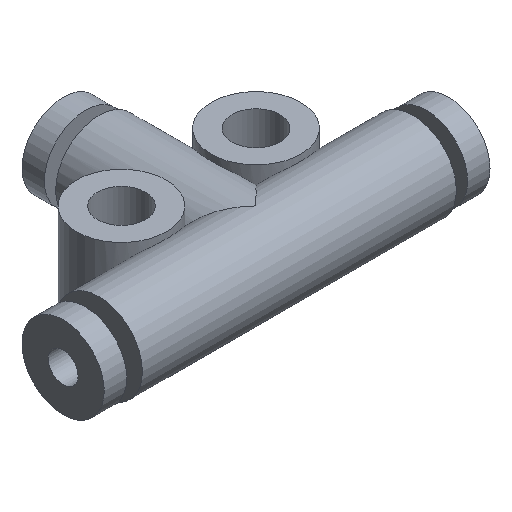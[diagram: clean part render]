
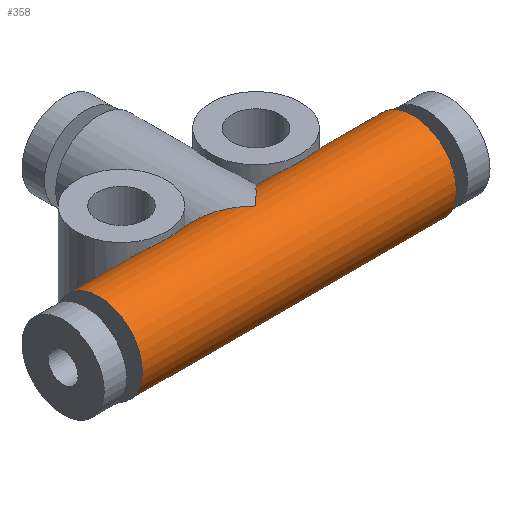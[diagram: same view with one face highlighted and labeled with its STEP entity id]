
A CAD part, isometric view. The second image highlights one B-rep face of the part: STEP entity #358.
In plain terms, the highlighted cylindrical face has radius 2.9 mm (diameter 5.8 mm), a full revolution.
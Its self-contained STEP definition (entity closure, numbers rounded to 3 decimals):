
#36=B_SPLINE_CURVE_WITH_KNOTS('',3,(#603,#604,#605,#606,#607,#608,#609,
#610,#611,#612,#613,#614,#615,#616,#617,#618),.UNSPECIFIED.,.F.,.F.,(4,
1,1,1,1,1,1,1,1,1,1,1,1,4),(0.011,0.011,0.012,
0.013,0.014,0.015,0.016,
0.018,0.019,0.02,0.021,
0.022,0.023,0.024),.UNSPECIFIED.);
#37=B_SPLINE_CURVE_WITH_KNOTS('',3,(#624,#625,#626,#627,#628,#629,#630,
#631,#632,#633,#634,#635,#636,#637,#638,#639,#640),.UNSPECIFIED.,.F.,.F.,
(4,1,1,1,1,1,1,1,1,1,1,1,1,1,4),(0.002,0.004,
0.004,0.005,0.006,0.007,
0.008,0.009,0.01,0.01,
0.011,0.012,0.013,0.014,
0.016),.UNSPECIFIED.);
#40=ELLIPSE('',#404,4.101,2.9);
#41=ELLIPSE('',#405,4.101,2.9);
#42=ELLIPSE('',#406,4.101,2.9);
#43=ELLIPSE('',#407,4.101,2.9);
#44=ORIENTED_EDGE('',*,*,#118,.F.);
#45=ORIENTED_EDGE('',*,*,#119,.F.);
#46=ORIENTED_EDGE('',*,*,#120,.F.);
#47=ORIENTED_EDGE('',*,*,#121,.F.);
#48=ORIENTED_EDGE('',*,*,#122,.F.);
#49=ORIENTED_EDGE('',*,*,#123,.F.);
#50=ORIENTED_EDGE('',*,*,#124,.F.);
#51=ORIENTED_EDGE('',*,*,#125,.T.);
#118=EDGE_CURVE('',#155,#155,#190,.T.);
#119=EDGE_CURVE('',#156,#157,#40,.T.);
#120=EDGE_CURVE('',#158,#156,#36,.T.);
#121=EDGE_CURVE('',#159,#158,#41,.T.);
#122=EDGE_CURVE('',#160,#159,#42,.F.);
#123=EDGE_CURVE('',#161,#160,#37,.T.);
#124=EDGE_CURVE('',#157,#161,#43,.F.);
#125=EDGE_CURVE('',#162,#162,#191,.T.);
#155=VERTEX_POINT('',#599);
#156=VERTEX_POINT('',#601);
#157=VERTEX_POINT('',#602);
#158=VERTEX_POINT('',#619);
#159=VERTEX_POINT('',#621);
#160=VERTEX_POINT('',#623);
#161=VERTEX_POINT('',#641);
#162=VERTEX_POINT('',#644);
#190=CIRCLE('',#403,2.9);
#191=CIRCLE('',#408,2.9);
#219=EDGE_LOOP('',(#44));
#220=EDGE_LOOP('',(#45,#46,#47,#48,#49,#50));
#221=EDGE_LOOP('',(#51));
#281=FACE_BOUND('',#219,.T.);
#282=FACE_BOUND('',#220,.T.);
#283=FACE_BOUND('',#221,.T.);
#343=CYLINDRICAL_SURFACE('',#402,2.9);
#358=ADVANCED_FACE('',(#281,#282,#283),#343,.T.);
#402=AXIS2_PLACEMENT_3D('',#597,#468,#469);
#403=AXIS2_PLACEMENT_3D('',#598,#470,#471);
#404=AXIS2_PLACEMENT_3D('',#600,#472,#473);
#405=AXIS2_PLACEMENT_3D('',#620,#474,#475);
#406=AXIS2_PLACEMENT_3D('',#622,#476,#477);
#407=AXIS2_PLACEMENT_3D('',#642,#478,#479);
#408=AXIS2_PLACEMENT_3D('',#643,#480,#481);
#468=DIRECTION('',(1.,0.,0.));
#469=DIRECTION('',(0.,0.,-1.));
#470=DIRECTION('',(1.,0.,0.));
#471=DIRECTION('',(0.,0.,-1.));
#472=DIRECTION('',(0.707,0.707,0.));
#473=DIRECTION('',(0.707,-0.707,0.));
#474=DIRECTION('',(0.707,0.707,0.));
#475=DIRECTION('',(0.707,-0.707,0.));
#476=DIRECTION('',(0.707,-0.707,0.));
#477=DIRECTION('',(0.707,0.707,0.));
#478=DIRECTION('',(0.707,-0.707,0.));
#479=DIRECTION('',(0.707,0.707,0.));
#480=DIRECTION('',(1.,0.,0.));
#481=DIRECTION('',(0.,0.,-1.));
#597=CARTESIAN_POINT('',(12.9,0.,0.));
#598=CARTESIAN_POINT('',(10.5,0.,0.));
#599=CARTESIAN_POINT('',(10.5,0.,-2.9));
#600=CARTESIAN_POINT('',(0.,0.,0.));
#601=CARTESIAN_POINT('',(-2.379,2.379,1.659));
#602=CARTESIAN_POINT('',(0.,0.,2.9));
#603=CARTESIAN_POINT('',(-2.379,2.379,-1.659));
#604=CARTESIAN_POINT('',(-2.522,2.236,-1.864));
#605=CARTESIAN_POINT('',(-2.899,1.92,-2.197));
#606=CARTESIAN_POINT('',(-3.676,1.572,-2.441));
#607=CARTESIAN_POINT('',(-4.55,1.458,-2.506));
#608=CARTESIAN_POINT('',(-5.417,1.6,-2.424));
#609=CARTESIAN_POINT('',(-6.174,1.968,-2.156));
#610=CARTESIAN_POINT('',(-6.889,2.605,-1.452));
#611=CARTESIAN_POINT('',(-7.138,3.098,0.008));
#612=CARTESIAN_POINT('',(-6.886,2.602,1.456));
#613=CARTESIAN_POINT('',(-6.172,1.966,2.158));
#614=CARTESIAN_POINT('',(-5.412,1.598,2.426));
#615=CARTESIAN_POINT('',(-4.545,1.458,2.505));
#616=CARTESIAN_POINT('',(-3.381,1.608,2.422));
#617=CARTESIAN_POINT('',(-2.666,2.091,2.071));
#618=CARTESIAN_POINT('',(-2.379,2.379,1.659));
#619=CARTESIAN_POINT('',(-2.379,2.379,-1.659));
#620=CARTESIAN_POINT('',(0.,0.,0.));
#621=CARTESIAN_POINT('',(0.,0.,-2.9));
#622=CARTESIAN_POINT('',(0.,0.,0.));
#623=CARTESIAN_POINT('',(2.379,2.379,-1.659));
#624=CARTESIAN_POINT('',(2.379,2.379,1.659));
#625=CARTESIAN_POINT('',(2.666,2.092,2.07));
#626=CARTESIAN_POINT('',(3.382,1.606,2.423));
#627=CARTESIAN_POINT('',(4.548,1.458,2.505));
#628=CARTESIAN_POINT('',(5.414,1.599,2.425));
#629=CARTESIAN_POINT('',(6.172,1.967,2.157));
#630=CARTESIAN_POINT('',(6.709,2.441,1.631));
#631=CARTESIAN_POINT('',(6.985,2.812,0.871));
#632=CARTESIAN_POINT('',(7.064,2.944,0.));
#633=CARTESIAN_POINT('',(6.985,2.811,-0.87));
#634=CARTESIAN_POINT('',(6.711,2.443,-1.628));
#635=CARTESIAN_POINT('',(6.176,1.969,-2.156));
#636=CARTESIAN_POINT('',(5.415,1.599,-2.425));
#637=CARTESIAN_POINT('',(4.548,1.458,-2.506));
#638=CARTESIAN_POINT('',(3.382,1.607,-2.422));
#639=CARTESIAN_POINT('',(2.669,2.089,-2.075));
#640=CARTESIAN_POINT('',(2.379,2.379,-1.659));
#641=CARTESIAN_POINT('',(2.379,2.379,1.659));
#642=CARTESIAN_POINT('',(0.,0.,0.));
#643=CARTESIAN_POINT('',(-10.5,0.,0.));
#644=CARTESIAN_POINT('',(-10.5,0.,-2.9));
